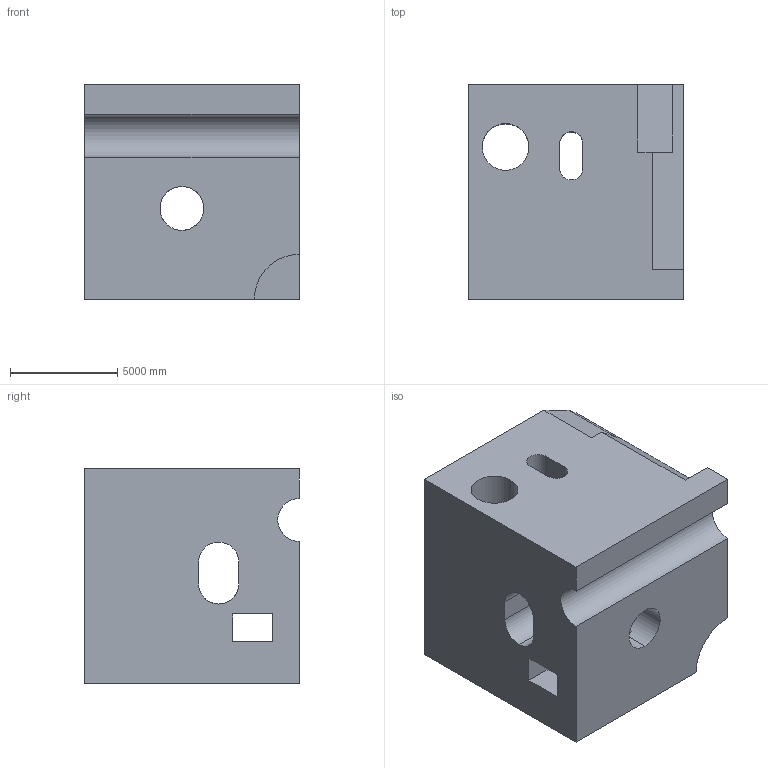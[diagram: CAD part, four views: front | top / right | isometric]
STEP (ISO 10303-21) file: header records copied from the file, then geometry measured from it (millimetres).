
FILE_DESCRIPTION (( 'STEP AP203' ), '1' );
FILE_NAME ('968.STEP', '2022-08-04T16:20:41', ( 'user' ), ( '' ), 'SwSTEP 2.0', 'SolidWorks 2021', '' );
FILE_SCHEMA (( 'CONFIG_CONTROL_DESIGN' ));
Length unit declared in the file: centimetre
Products named in the file (1): 968
Bounding box: 10000 x 10000 x 10000 mm (x, y, z)
Volume: 795615914700.1 mm3; surface area: 884459835.1 mm2
Topology: 1 solids, 1 shells, 43 faces, 147 edges, 98 vertices
Faces by surface type: plane 28, cylinder 15
Entity records: 2487 total; most frequent: CARTESIAN_POINT 1102, ORIENTED_EDGE 294, DIRECTION 253, EDGE_CURVE 147, VECTOR 99, LINE 99, VERTEX_POINT 98, AXIS2_PLACEMENT_3D 77
